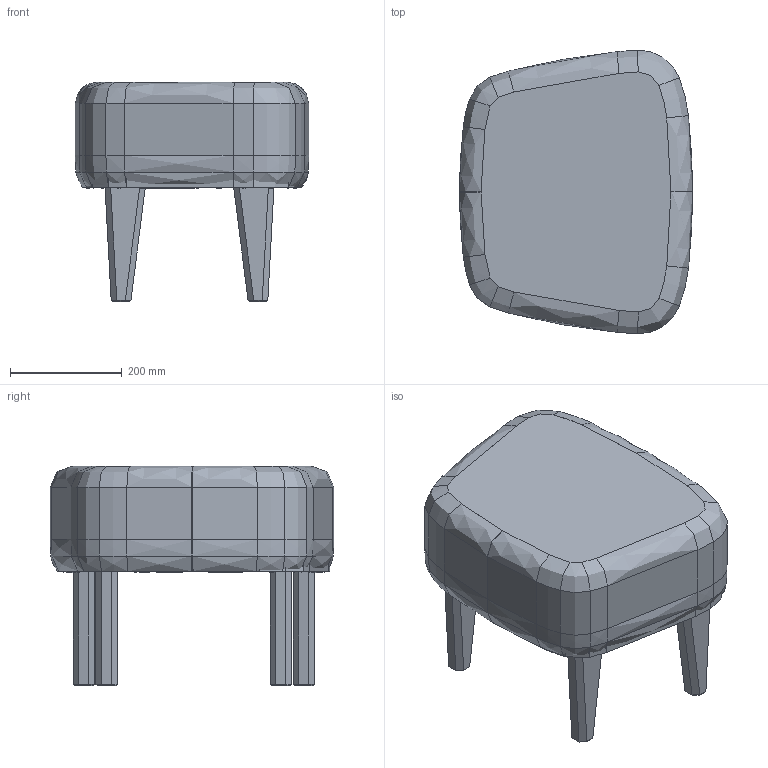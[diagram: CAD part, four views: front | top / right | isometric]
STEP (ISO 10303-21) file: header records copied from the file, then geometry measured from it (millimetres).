
FILE_DESCRIPTION(/* description */ (''),/* implementation_level */ '2;1');
FILE_NAME(/* name */ 'Ingeborg Ottoman',/* time_stamp */ '2023-12-01T11:13:33+01:00',/* author */ (''),/* organization */ (''),/* preprocessor_version */ 'ST-DEVELOPER v16.5',/* originating_system */ 'Rhino 7.31',/* authorisation */ '');
FILE_SCHEMA (('AUTOMOTIVE_DESIGN'));
Length unit declared in the file: millimetre
Products named in the file (27): Ingeborg pouf cross section; Leg_front; 7213_W003; smeige m8x30_60ipt; Block 01; kaiščiai 8x30; 7213_W067; 7213_W056; 7213_W068; 7213_W069; 7213_W070; 7213_W072; 7213_F028; 7213_F029; 7213_F030; 7213_F031; Frame 1610618974260; 1610619457731; 1610619473291; 1610949114395; Block 02; 7213_F032; 7213_F035_cros section; veržlė M8; Block 03; poveržlė m8; 7213_W067_MIR
Assembly tree (46 placements, depth 4):
  Ingeborg pouf cross section
    Leg_front  x4
      7213_W003
      smeige m8x30_60ipt
        Block 01
      kaiščiai 8x30
    7213_W067
    7213_W056  x4
    7213_W068
    7213_W069
    7213_W070  x4
    7213_W072  x2
    7213_F028  x2
    7213_F029
    7213_F030
    7213_F031
    Frame 1610618974260
      1610619457731  x3
      1610619473291  x2
      1610949114395
        Block 02
    7213_F032
    7213_F035_cros section
    veržlė M8  x4
      Block 03
    poveržlė m8  x4
    7213_W067_MIR
Bounding box: 418 x 507.73 x 392.82 mm (x, y, z)
Volume: 13936594.9 mm3; surface area: 3230157.8 mm2
Topology: 43 solids, 56 shells, 1520 faces, 3767 edges, 2333 vertices
Faces by surface type: cylinder 716, bspline 473, plane 331
Entity records: 35369 total; most frequent: CARTESIAN_POINT 22302, ORIENTED_EDGE 3926, EDGE_CURVE 1969, VERTEX_POINT 1184, B_SPLINE_CURVE_WITH_KNOTS 853, EDGE_LOOP 847, ADVANCED_FACE 824, FACE_OUTER_BOUND 824
